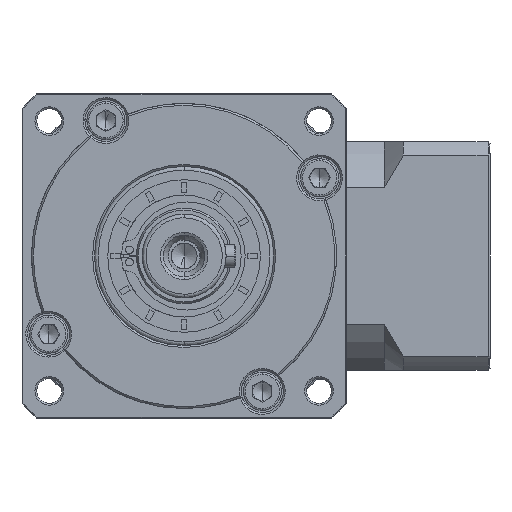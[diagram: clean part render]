
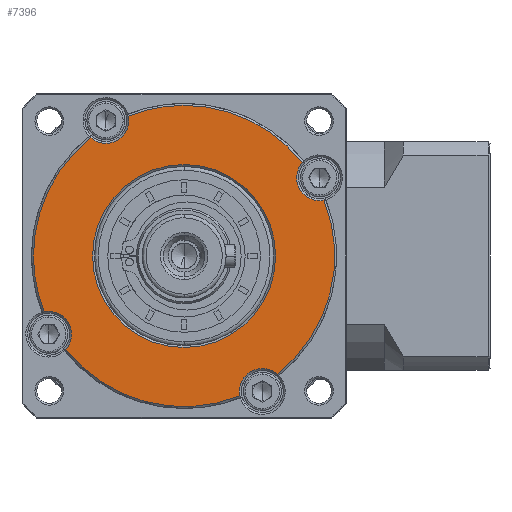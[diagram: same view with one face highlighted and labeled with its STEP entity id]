
A CAD part, left-side view. The second image highlights one B-rep face of the part: STEP entity #7396.
In plain terms, the highlighted planar face has unit normal (-1, 0, 0).
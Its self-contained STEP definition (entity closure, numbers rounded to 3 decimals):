
#480 = DIRECTION ( 'NONE',  ( 0., 0., -1. ) ) ;
#2584 = DIRECTION ( 'NONE',  ( 0., 0., 1. ) ) ;
#4717 = AXIS2_PLACEMENT_3D ( 'NONE', #170975, #90740, #10680 ) ;
#5546 = CIRCLE ( 'NONE', #50886, 6. ) ;
#6741 = AXIS2_PLACEMENT_3D ( 'NONE', #115952, #35793, #129439 ) ;
#7315 = CARTESIAN_POINT ( 'NONE',  ( -83.108, -36.002, -156.39 ) ) ;
#7396 = ADVANCED_FACE ( 'NONE', ( #40226, #102874 ), #50778, .T. ) ;
#7549 = CIRCLE ( 'NONE', #16095, 39.5 ) ;
#7731 = CARTESIAN_POINT ( 'NONE',  ( -83.108, -21.383, -119.695 ) ) ;
#10075 = CARTESIAN_POINT ( 'NONE',  ( -83.108, -21.383, -119.695 ) ) ;
#10680 = DIRECTION ( 'NONE',  ( 0., 0., -1. ) ) ;
#13250 = CARTESIAN_POINT ( 'NONE',  ( -83.108, 18.117, -119.695 ) ) ;
#14489 = CARTESIAN_POINT ( 'NONE',  ( -83.108, 2.617, -119.695 ) ) ;
#16095 = AXIS2_PLACEMENT_3D ( 'NONE', #59680, #153315, #73163 ) ;
#17081 = CIRCLE ( 'NONE', #170473, 39.5 ) ;
#17802 = DIRECTION ( 'NONE',  ( 1., 0., 0. ) ) ;
#18957 = CARTESIAN_POINT ( 'NONE',  ( -83.108, -21.383, -119.695 ) ) ;
#20661 = CIRCLE ( 'NONE', #73108, 24. ) ;
#20816 = CIRCLE ( 'NONE', #4717, 6. ) ;
#20828 = EDGE_CURVE ( 'NONE', #151155, #151770, #24904, .T. ) ;
#21110 = ORIENTED_EDGE ( 'NONE', *, *, #148006, .F. ) ;
#21149 = DIRECTION ( 'NONE',  ( 0., -1., 0. ) ) ;
#22376 = CARTESIAN_POINT ( 'NONE',  ( -83.108, -0.883, -84.188 ) ) ;
#23533 = DIRECTION ( 'NONE',  ( 0., -1., 0. ) ) ;
#24904 = CIRCLE ( 'NONE', #45787, 39.5 ) ;
#28084 = ORIENTED_EDGE ( 'NONE', *, *, #120149, .T. ) ;
#28449 = AXIS2_PLACEMENT_3D ( 'NONE', #10075, #103581, #23533 ) ;
#30142 = EDGE_CURVE ( 'NONE', #49585, #166129, #165258, .T. ) ;
#30530 = AXIS2_PLACEMENT_3D ( 'NONE', #71369, #164948, #84727 ) ;
#32311 = DIRECTION ( 'NONE',  ( 0., 1., 0. ) ) ;
#35690 = ORIENTED_EDGE ( 'NONE', *, *, #73264, .T. ) ;
#35749 = DIRECTION ( 'NONE',  ( 0., 0., -1. ) ) ;
#35793 = DIRECTION ( 'NONE',  ( 1., 0., 0. ) ) ;
#37933 = CARTESIAN_POINT ( 'NONE',  ( -83.108, -21.383, -119.695 ) ) ;
#38461 = ORIENTED_EDGE ( 'NONE', *, *, #170331, .T. ) ;
#39312 = CIRCLE ( 'NONE', #118281, 6. ) ;
#40226 = FACE_OUTER_BOUND ( 'NONE', #133942, .T. ) ;
#40880 = ORIENTED_EDGE ( 'NONE', *, *, #100538, .F. ) ;
#41980 = VERTEX_POINT ( 'NONE', #7315 ) ;
#42144 = CARTESIAN_POINT ( 'NONE',  ( -83.108, 9.625, -144.165 ) ) ;
#43127 = VERTEX_POINT ( 'NONE', #169630 ) ;
#45787 = AXIS2_PLACEMENT_3D ( 'NONE', #127909, #47742, #141404 ) ;
#47653 = CIRCLE ( 'NONE', #30530, 39.5 ) ;
#47742 = DIRECTION ( 'NONE',  ( 1., 0., 0. ) ) ;
#48413 = VERTEX_POINT ( 'NONE', #114157 ) ;
#49585 = VERTEX_POINT ( 'NONE', #109234 ) ;
#50392 = ORIENTED_EDGE ( 'NONE', *, *, #30142, .T. ) ;
#50778 = PLANE ( 'NONE',  #81438 ) ;
#50886 = AXIS2_PLACEMENT_3D ( 'NONE', #97810, #17802, #111330 ) ;
#51355 = DIRECTION ( 'NONE',  ( 0., 0., -1. ) ) ;
#51772 = VERTEX_POINT ( 'NONE', #81842 ) ;
#51809 = VERTEX_POINT ( 'NONE', #42144 ) ;
#54121 = EDGE_CURVE ( 'NONE', #167833, #48413, #149506, .T. ) ;
#56037 = EDGE_CURVE ( 'NONE', #119228, #51772, #108660, .T. ) ;
#58175 = AXIS2_PLACEMENT_3D ( 'NONE', #62413, #156069, #75875 ) ;
#59680 = CARTESIAN_POINT ( 'NONE',  ( -83.108, -21.383, -119.695 ) ) ;
#62238 = CARTESIAN_POINT ( 'NONE',  ( -83.108, -21.383, -80.195 ) ) ;
#62413 = CARTESIAN_POINT ( 'NONE',  ( -83.108, -21.383, -119.695 ) ) ;
#62520 = CARTESIAN_POINT ( 'NONE',  ( -83.108, -45.853, -150.703 ) ) ;
#68213 = CARTESIAN_POINT ( 'NONE',  ( -83.108, -52.391, -95.225 ) ) ;
#71308 = VERTEX_POINT ( 'NONE', #62238 ) ;
#71369 = CARTESIAN_POINT ( 'NONE',  ( -83.108, -21.383, -119.695 ) ) ;
#73108 = AXIS2_PLACEMENT_3D ( 'NONE', #7731, #101188, #21149 ) ;
#73163 = DIRECTION ( 'NONE',  ( 0., 0., 1. ) ) ;
#73264 = EDGE_CURVE ( 'NONE', #151155, #43127, #171424, .T. ) ;
#75875 = DIRECTION ( 'NONE',  ( 0., 0., 1. ) ) ;
#77769 = CARTESIAN_POINT ( 'NONE',  ( -83.108, -41.883, -155.202 ) ) ;
#80581 = DIRECTION ( 'NONE',  ( 1., 0., 0. ) ) ;
#81438 = AXIS2_PLACEMENT_3D ( 'NONE', #37933, #131531, #51355 ) ;
#81842 = CARTESIAN_POINT ( 'NONE',  ( -83.108, -45.383, -119.695 ) ) ;
#82632 = DIRECTION ( 'NONE',  ( 1., 0., 0. ) ) ;
#83099 = CARTESIAN_POINT ( 'NONE',  ( -83.108, 15.312, -134.314 ) ) ;
#83372 = ORIENTED_EDGE ( 'NONE', *, *, #56037, .T. ) ;
#84727 = DIRECTION ( 'NONE',  ( 0., 1., 0. ) ) ;
#86267 = AXIS2_PLACEMENT_3D ( 'NONE', #18957, #112531, #32311 ) ;
#90740 = DIRECTION ( 'NONE',  ( 1., 0., 0. ) ) ;
#91127 = DIRECTION ( 'NONE',  ( 0., 0., -1. ) ) ;
#93105 = CIRCLE ( 'NONE', #6741, 6. ) ;
#93262 = ORIENTED_EDGE ( 'NONE', *, *, #170705, .T. ) ;
#96264 = ORIENTED_EDGE ( 'NONE', *, *, #54121, .F. ) ;
#97810 = CARTESIAN_POINT ( 'NONE',  ( -83.108, 14.124, -140.195 ) ) ;
#100538 = EDGE_CURVE ( 'NONE', #71308, #164804, #112526, .T. ) ;
#100709 = CARTESIAN_POINT ( 'NONE',  ( -83.108, -58.078, -105.076 ) ) ;
#101188 = DIRECTION ( 'NONE',  ( 1., 0., 0. ) ) ;
#102874 = FACE_BOUND ( 'NONE', #162197, .T. ) ;
#103581 = DIRECTION ( 'NONE',  ( 1., 0., 0. ) ) ;
#106536 = EDGE_CURVE ( 'NONE', #166129, #48413, #93105, .T. ) ;
#108660 = CIRCLE ( 'NONE', #28449, 24. ) ;
#109234 = CARTESIAN_POINT ( 'NONE',  ( -83.108, -6.764, -83. ) ) ;
#111330 = DIRECTION ( 'NONE',  ( 0., 0., -1. ) ) ;
#112526 = CIRCLE ( 'NONE', #58175, 39.5 ) ;
#112531 = DIRECTION ( 'NONE',  ( 1., 0., 0. ) ) ;
#114157 = CARTESIAN_POINT ( 'NONE',  ( -83.108, 3.087, -88.687 ) ) ;
#115909 = DIRECTION ( 'NONE',  ( 1., 0., 0. ) ) ;
#115952 = CARTESIAN_POINT ( 'NONE',  ( -83.108, -0.883, -84.188 ) ) ;
#118281 = AXIS2_PLACEMENT_3D ( 'NONE', #77769, #171383, #91127 ) ;
#119228 = VERTEX_POINT ( 'NONE', #14489 ) ;
#120149 = EDGE_CURVE ( 'NONE', #41980, #151770, #39312, .T. ) ;
#127909 = CARTESIAN_POINT ( 'NONE',  ( -83.108, -21.383, -119.695 ) ) ;
#128699 = ORIENTED_EDGE ( 'NONE', *, *, #106536, .T. ) ;
#129439 = DIRECTION ( 'NONE',  ( 0., 0., -1. ) ) ;
#131531 = DIRECTION ( 'NONE',  ( -1., 0., 0. ) ) ;
#133779 = AXIS2_PLACEMENT_3D ( 'NONE', #160816, #80581, #480 ) ;
#133942 = EDGE_LOOP ( 'NONE', ( #169657, #50392, #128699, #96264, #143615, #166687, #21110, #28084, #153850, #35690, #38461, #40880 ) ) ;
#138257 = AXIS2_PLACEMENT_3D ( 'NONE', #22376, #115909, #35749 ) ;
#141404 = DIRECTION ( 'NONE',  ( 0., 0., 1. ) ) ;
#143615 = ORIENTED_EDGE ( 'NONE', *, *, #170956, .F. ) ;
#148006 = EDGE_CURVE ( 'NONE', #41980, #51809, #17081, .T. ) ;
#149506 = CIRCLE ( 'NONE', #86267, 39.5 ) ;
#149819 = EDGE_CURVE ( 'NONE', #49585, #71308, #7549, .T. ) ;
#151155 = VERTEX_POINT ( 'NONE', #100709 ) ;
#151770 = VERTEX_POINT ( 'NONE', #62520 ) ;
#153315 = DIRECTION ( 'NONE',  ( 1., 0., 0. ) ) ;
#153850 = ORIENTED_EDGE ( 'NONE', *, *, #20828, .F. ) ;
#156069 = DIRECTION ( 'NONE',  ( 1., 0., 0. ) ) ;
#156502 = EDGE_CURVE ( 'NONE', #161823, #51809, #5546, .T. ) ;
#159741 = CARTESIAN_POINT ( 'NONE',  ( -83.108, -0.883, -90.188 ) ) ;
#160816 = CARTESIAN_POINT ( 'NONE',  ( -83.108, -56.89, -99.195 ) ) ;
#161823 = VERTEX_POINT ( 'NONE', #83099 ) ;
#162197 = EDGE_LOOP ( 'NONE', ( #93262, #83372 ) ) ;
#162894 = CARTESIAN_POINT ( 'NONE',  ( -83.108, -21.383, -119.695 ) ) ;
#164804 = VERTEX_POINT ( 'NONE', #68213 ) ;
#164948 = DIRECTION ( 'NONE',  ( 1., 0., 0. ) ) ;
#165258 = CIRCLE ( 'NONE', #138257, 6. ) ;
#166129 = VERTEX_POINT ( 'NONE', #159741 ) ;
#166687 = ORIENTED_EDGE ( 'NONE', *, *, #156502, .T. ) ;
#167833 = VERTEX_POINT ( 'NONE', #13250 ) ;
#169630 = CARTESIAN_POINT ( 'NONE',  ( -83.108, -56.89, -105.195 ) ) ;
#169657 = ORIENTED_EDGE ( 'NONE', *, *, #149819, .F. ) ;
#170331 = EDGE_CURVE ( 'NONE', #43127, #164804, #20816, .T. ) ;
#170473 = AXIS2_PLACEMENT_3D ( 'NONE', #162894, #82632, #2584 ) ;
#170705 = EDGE_CURVE ( 'NONE', #51772, #119228, #20661, .T. ) ;
#170956 = EDGE_CURVE ( 'NONE', #161823, #167833, #47653, .T. ) ;
#170975 = CARTESIAN_POINT ( 'NONE',  ( -83.108, -56.89, -99.195 ) ) ;
#171383 = DIRECTION ( 'NONE',  ( 1., 0., 0. ) ) ;
#171424 = CIRCLE ( 'NONE', #133779, 6. ) ;
